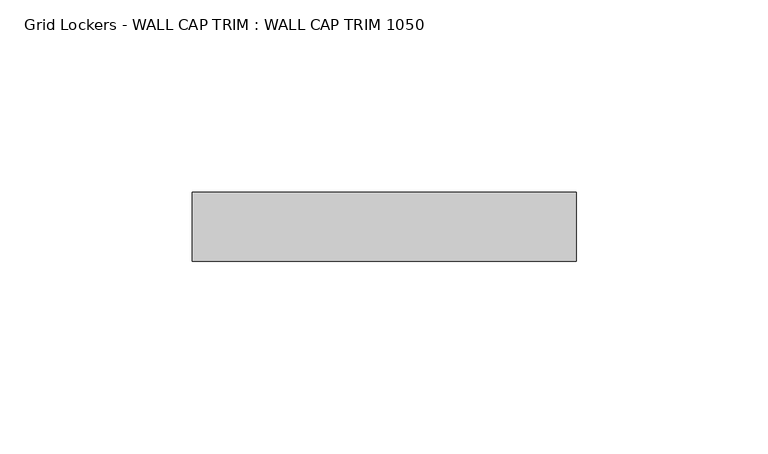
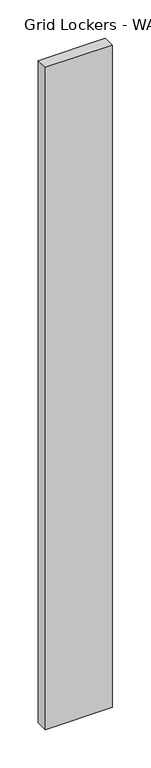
"""IFC4 building model written with IfcOpenShell, lengths in millimetres: furniture geometry, Grid Lockers - WALL CAP TRIM : WALL CAP TRIM 1050."""

from ifc_helpers import new_model, si_unit, origin, origin_with_axes, place, context, project, spatial, polyline, outline, extrude, source, transform, mapped, element, save


def grid_lockers_wall_cap_trim_wall_cap_trim_1050_d14cf618(model_context):
    return source(origin(), model_context, "Body", "SweptSolid", [
        extrude(outline(polyline([(100.0, -18.0), (0.0, -18.0), (0.0, 0.0), (100.0, 0.0), (100.0, -18.0)])), origin_with_axes(), (0.0, 0.0, 1.0), 1050.0),
    ])


if __name__ == "__main__":
    model = new_model("IFC4")
    model_context = context("Model", 3, world=origin())
    ifc_project = project(units=[si_unit("LENGTHUNIT", "METRE", prefix="MILLI")], contexts=[model_context])
    site = spatial("IfcSite", under=ifc_project)
    building = spatial("IfcBuilding", under=site)
    placement = place(None, origin())
    grid_lockers_wall_cap_trim_wall_cap_trim_1050_shape = grid_lockers_wall_cap_trim_wall_cap_trim_1050_d14cf618(model_context)
    element("IfcFurniture", 1, ObjectType="Grid Lockers - WALL CAP TRIM : WALL CAP TRIM 1050", at=placement, inside=building, context=model_context, shape_type="MappedRepresentation", body=[
        mapped(grid_lockers_wall_cap_trim_wall_cap_trim_1050_shape, transform((0.0, 0.0, 0.0), x_axis=(1.0, 0.0, 0.0), y_axis=(0.0, 1.0, 0.0), z_axis=(0.0, 0.0, 1.0))),
    ])
    save(model, "model.ifc")
